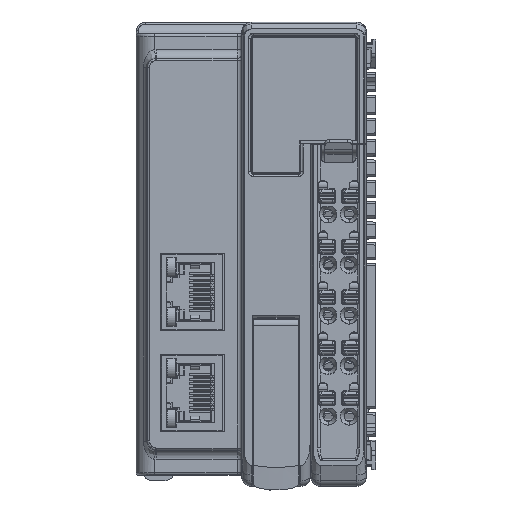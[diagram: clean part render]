
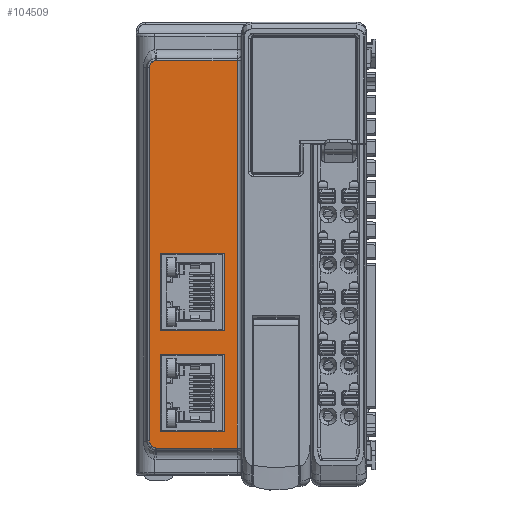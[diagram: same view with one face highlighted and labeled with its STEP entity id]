
A CAD part, top view. The second image highlights one B-rep face of the part: STEP entity #104509.
In plain terms, the highlighted planar face has unit normal (0, 0, 1).
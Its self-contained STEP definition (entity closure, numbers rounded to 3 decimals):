
#368=DIRECTION('',(0.,-1.,0.));
#369=VECTOR('',#368,84.303);
#370=CARTESIAN_POINT('',(-30.2,92.652,40.5));
#371=LINE('',#370,#369);
#372=DIRECTION('',(1.,0.,0.));
#373=VECTOR('',#372,17.604);
#374=CARTESIAN_POINT('',(-47.804,8.348,40.5));
#375=LINE('',#374,#373);
#376=CARTESIAN_POINT('',(-47.957,8.356,40.5));
#377=CARTESIAN_POINT('',(-47.94,8.354,40.5));
#378=CARTESIAN_POINT('',(-47.906,8.351,40.5));
#379=CARTESIAN_POINT('',(-47.855,8.349,40.5));
#380=CARTESIAN_POINT('',(-47.821,8.348,40.5));
#381=CARTESIAN_POINT('',(-47.804,8.348,40.5));
#383=CARTESIAN_POINT('',(-48.747,8.705,40.5));
#384=CARTESIAN_POINT('',(-48.705,8.672,40.5));
#385=CARTESIAN_POINT('',(-48.621,8.611,40.5));
#386=CARTESIAN_POINT('',(-48.498,8.535,40.5));
#387=CARTESIAN_POINT('',(-48.38,8.474,40.5));
#388=CARTESIAN_POINT('',(-48.268,8.427,40.5));
#389=CARTESIAN_POINT('',(-48.162,8.393,40.5));
#390=CARTESIAN_POINT('',(-48.057,8.369,40.5));
#391=CARTESIAN_POINT('',(-47.99,8.359,40.5));
#392=CARTESIAN_POINT('',(-47.957,8.356,40.5));
#394=CARTESIAN_POINT('',(-49.317,9.882,40.5));
#395=CARTESIAN_POINT('',(-49.317,9.841,40.5));
#396=CARTESIAN_POINT('',(-49.314,9.76,40.5));
#397=CARTESIAN_POINT('',(-49.299,9.638,40.5));
#398=CARTESIAN_POINT('',(-49.274,9.517,40.5));
#399=CARTESIAN_POINT('',(-49.239,9.399,40.5));
#400=CARTESIAN_POINT('',(-49.194,9.283,40.5));
#401=CARTESIAN_POINT('',(-49.14,9.172,40.5));
#402=CARTESIAN_POINT('',(-49.077,9.065,40.5));
#403=CARTESIAN_POINT('',(-49.006,8.964,40.5));
#404=CARTESIAN_POINT('',(-48.927,8.87,40.5));
#405=CARTESIAN_POINT('',(-48.84,8.783,40.5));
#406=CARTESIAN_POINT('',(-48.779,8.73,40.5));
#407=CARTESIAN_POINT('',(-48.747,8.705,40.5));
#409=DIRECTION('',(0.,-1.,0.));
#410=VECTOR('',#409,81.236);
#411=CARTESIAN_POINT('',(-49.317,91.118,40.5));
#412=LINE('',#411,#410);
#413=CARTESIAN_POINT('',(-48.747,92.295,40.5));
#414=CARTESIAN_POINT('',(-48.779,92.27,40.5));
#415=CARTESIAN_POINT('',(-48.84,92.217,40.5));
#416=CARTESIAN_POINT('',(-48.927,92.13,40.5));
#417=CARTESIAN_POINT('',(-49.006,92.035,40.5));
#418=CARTESIAN_POINT('',(-49.077,91.935,40.5));
#419=CARTESIAN_POINT('',(-49.14,91.828,40.5));
#420=CARTESIAN_POINT('',(-49.194,91.717,40.5));
#421=CARTESIAN_POINT('',(-49.239,91.601,40.5));
#422=CARTESIAN_POINT('',(-49.274,91.483,40.5));
#423=CARTESIAN_POINT('',(-49.299,91.362,40.5));
#424=CARTESIAN_POINT('',(-49.314,91.24,40.5));
#425=CARTESIAN_POINT('',(-49.317,91.159,40.5));
#426=CARTESIAN_POINT('',(-49.317,91.118,40.5));
#428=CARTESIAN_POINT('',(-47.957,92.644,40.5));
#429=CARTESIAN_POINT('',(-47.99,92.641,40.5));
#430=CARTESIAN_POINT('',(-48.057,92.631,40.5));
#431=CARTESIAN_POINT('',(-48.161,92.607,40.5));
#432=CARTESIAN_POINT('',(-48.268,92.573,40.5));
#433=CARTESIAN_POINT('',(-48.38,92.526,40.5));
#434=CARTESIAN_POINT('',(-48.498,92.465,40.5));
#435=CARTESIAN_POINT('',(-48.621,92.389,40.5));
#436=CARTESIAN_POINT('',(-48.705,92.328,40.5));
#437=CARTESIAN_POINT('',(-48.747,92.295,40.5));
#439=CARTESIAN_POINT('',(-47.804,92.652,40.5));
#440=CARTESIAN_POINT('',(-47.821,92.652,40.5));
#441=CARTESIAN_POINT('',(-47.855,92.651,40.5));
#442=CARTESIAN_POINT('',(-47.906,92.649,40.5));
#443=CARTESIAN_POINT('',(-47.94,92.646,40.5));
#444=CARTESIAN_POINT('',(-47.957,92.644,40.5));
#446=DIRECTION('',(-1.,0.,0.));
#447=VECTOR('',#446,17.604);
#448=CARTESIAN_POINT('',(-30.2,92.652,40.5));
#449=LINE('',#448,#447);
#450=DIRECTION('',(-1.,0.,0.));
#451=VECTOR('',#450,14.);
#452=CARTESIAN_POINT('',(-33.,33.9,40.5));
#453=LINE('',#452,#451);
#454=DIRECTION('',(0.,-1.,0.));
#455=VECTOR('',#454,16.8);
#456=CARTESIAN_POINT('',(-33.,50.7,40.5));
#457=LINE('',#456,#455);
#458=DIRECTION('',(1.,0.,0.));
#459=VECTOR('',#458,14.);
#460=CARTESIAN_POINT('',(-47.,50.7,40.5));
#461=LINE('',#460,#459);
#462=DIRECTION('',(0.,1.,0.));
#463=VECTOR('',#462,16.8);
#464=CARTESIAN_POINT('',(-47.,33.9,40.5));
#465=LINE('',#464,#463);
#466=DIRECTION('',(1.,0.,0.));
#467=VECTOR('',#466,14.);
#468=CARTESIAN_POINT('',(-47.,28.7,40.5));
#469=LINE('',#468,#467);
#470=DIRECTION('',(0.,1.,0.));
#471=VECTOR('',#470,16.8);
#472=CARTESIAN_POINT('',(-47.,11.9,40.5));
#473=LINE('',#472,#471);
#474=DIRECTION('',(-1.,0.,0.));
#475=VECTOR('',#474,14.);
#476=CARTESIAN_POINT('',(-33.,11.9,40.5));
#477=LINE('',#476,#475);
#478=DIRECTION('',(0.,-1.,0.));
#479=VECTOR('',#478,16.8);
#480=CARTESIAN_POINT('',(-33.,28.7,40.5));
#481=LINE('',#480,#479);
#95279=CARTESIAN_POINT('',(-33.,33.9,40.5));
#95280=CARTESIAN_POINT('',(-47.,33.9,40.5));
#95281=VERTEX_POINT('',#95279);
#95282=VERTEX_POINT('',#95280);
#95283=CARTESIAN_POINT('',(-47.,50.7,40.5));
#95284=CARTESIAN_POINT('',(-33.,50.7,40.5));
#95285=VERTEX_POINT('',#95283);
#95286=VERTEX_POINT('',#95284);
#95287=CARTESIAN_POINT('',(-47.,28.7,40.5));
#95288=CARTESIAN_POINT('',(-33.,28.7,40.5));
#95289=VERTEX_POINT('',#95287);
#95290=VERTEX_POINT('',#95288);
#95291=CARTESIAN_POINT('',(-33.,11.9,40.5));
#95292=CARTESIAN_POINT('',(-47.,11.9,40.5));
#95293=VERTEX_POINT('',#95291);
#95294=VERTEX_POINT('',#95292);
#95304=VERTEX_POINT('',#383);
#95305=VERTEX_POINT('',#392);
#95308=VERTEX_POINT('',#394);
#95310=CARTESIAN_POINT('',(-49.317,91.118,40.5));
#95311=VERTEX_POINT('',#95310);
#95314=VERTEX_POINT('',#413);
#95316=VERTEX_POINT('',#428);
#95322=CARTESIAN_POINT('',(-47.804,8.348,40.5));
#95324=VERTEX_POINT('',#95322);
#95334=CARTESIAN_POINT('',(-30.2,8.348,40.5));
#95335=VERTEX_POINT('',#95334);
#95336=CARTESIAN_POINT('',(-30.2,92.652,40.5));
#95337=VERTEX_POINT('',#95336);
#95352=CARTESIAN_POINT('',(-47.804,92.652,40.5));
#95353=VERTEX_POINT('',#95352);
#104465=CARTESIAN_POINT('',(0.,0.,40.5));
#104466=DIRECTION('',(0.,0.,1.));
#104467=DIRECTION('',(1.,0.,0.));
#104468=AXIS2_PLACEMENT_3D('',#104465,#104466,#104467);
#104469=PLANE('',#104468);
#104471=ORIENTED_EDGE('',*,*,#104470,.T.);
#104473=ORIENTED_EDGE('',*,*,#104472,.F.);
#104475=ORIENTED_EDGE('',*,*,#104474,.F.);
#104477=ORIENTED_EDGE('',*,*,#104476,.F.);
#104479=ORIENTED_EDGE('',*,*,#104478,.F.);
#104481=ORIENTED_EDGE('',*,*,#104480,.F.);
#104483=ORIENTED_EDGE('',*,*,#104482,.F.);
#104485=ORIENTED_EDGE('',*,*,#104484,.F.);
#104487=ORIENTED_EDGE('',*,*,#104486,.F.);
#104489=ORIENTED_EDGE('',*,*,#104488,.F.);
#104490=EDGE_LOOP('',(#104471,#104473,#104475,#104477,#104479,#104481,#104483,
#104485,#104487,#104489));
#104491=FACE_OUTER_BOUND('',#104490,.F.);
#104493=ORIENTED_EDGE('',*,*,#104492,.F.);
#104495=ORIENTED_EDGE('',*,*,#104494,.F.);
#104497=ORIENTED_EDGE('',*,*,#104496,.F.);
#104499=ORIENTED_EDGE('',*,*,#104498,.F.);
#104500=EDGE_LOOP('',(#104493,#104495,#104497,#104499));
#104501=FACE_BOUND('',#104500,.F.);
#104502=ORIENTED_EDGE('',*,*,#104220,.F.);
#104503=ORIENTED_EDGE('',*,*,#104433,.F.);
#104504=ORIENTED_EDGE('',*,*,#104159,.F.);
#104506=ORIENTED_EDGE('',*,*,#104505,.F.);
#104507=EDGE_LOOP('',(#104502,#104503,#104504,#104506));
#104508=FACE_BOUND('',#104507,.F.);
#382=B_SPLINE_CURVE_WITH_KNOTS('',3,(#376,#377,#378,#379,#380,#381),
.UNSPECIFIED.,.F.,.F.,(4,1,1,4),(0.,0.333,0.667,1.),
.UNSPECIFIED.);
#393=B_SPLINE_CURVE_WITH_KNOTS('',3,(#383,#384,#385,#386,#387,#388,#389,#390,
#391,#392),.UNSPECIFIED.,.F.,.F.,(4,1,1,1,1,1,1,4),(0.,0.143,
0.286,0.429,0.571,0.714,
0.857,1.),.UNSPECIFIED.);
#408=B_SPLINE_CURVE_WITH_KNOTS('',3,(#394,#395,#396,#397,#398,#399,#400,#401,
#402,#403,#404,#405,#406,#407),.UNSPECIFIED.,.F.,.F.,(4,1,1,1,1,1,1,1,1,1,1,4),(
0.,0.091,0.182,0.273,0.364,
0.455,0.545,0.636,0.727,
0.818,0.909,1.),.UNSPECIFIED.);
#427=B_SPLINE_CURVE_WITH_KNOTS('',3,(#413,#414,#415,#416,#417,#418,#419,#420,
#421,#422,#423,#424,#425,#426),.UNSPECIFIED.,.F.,.F.,(4,1,1,1,1,1,1,1,1,1,1,4),(
0.,0.091,0.182,0.273,0.364,
0.455,0.545,0.636,0.727,
0.818,0.909,1.),.UNSPECIFIED.);
#438=B_SPLINE_CURVE_WITH_KNOTS('',3,(#428,#429,#430,#431,#432,#433,#434,#435,
#436,#437),.UNSPECIFIED.,.F.,.F.,(4,1,1,1,1,1,1,4),(0.,0.143,
0.286,0.429,0.571,0.714,
0.857,1.),.UNSPECIFIED.);
#445=B_SPLINE_CURVE_WITH_KNOTS('',3,(#439,#440,#441,#442,#443,#444),
.UNSPECIFIED.,.F.,.F.,(4,1,1,4),(0.,0.333,0.667,1.),
.UNSPECIFIED.);
#104159=EDGE_CURVE('',#95293,#95294,#477,.T.);
#104220=EDGE_CURVE('',#95289,#95290,#469,.T.);
#104433=EDGE_CURVE('',#95294,#95289,#473,.T.);
#104470=EDGE_CURVE('',#95337,#95335,#371,.T.);
#104472=EDGE_CURVE('',#95324,#95335,#375,.T.);
#104474=EDGE_CURVE('',#95305,#95324,#382,.T.);
#104476=EDGE_CURVE('',#95304,#95305,#393,.T.);
#104478=EDGE_CURVE('',#95308,#95304,#408,.T.);
#104480=EDGE_CURVE('',#95311,#95308,#412,.T.);
#104482=EDGE_CURVE('',#95314,#95311,#427,.T.);
#104484=EDGE_CURVE('',#95316,#95314,#438,.T.);
#104486=EDGE_CURVE('',#95353,#95316,#445,.T.);
#104488=EDGE_CURVE('',#95337,#95353,#449,.T.);
#104492=EDGE_CURVE('',#95281,#95282,#453,.T.);
#104494=EDGE_CURVE('',#95286,#95281,#457,.T.);
#104496=EDGE_CURVE('',#95285,#95286,#461,.T.);
#104498=EDGE_CURVE('',#95282,#95285,#465,.T.);
#104505=EDGE_CURVE('',#95290,#95293,#481,.T.);
#104509=ADVANCED_FACE('',(#104491,#104501,#104508),#104469,.T.);
